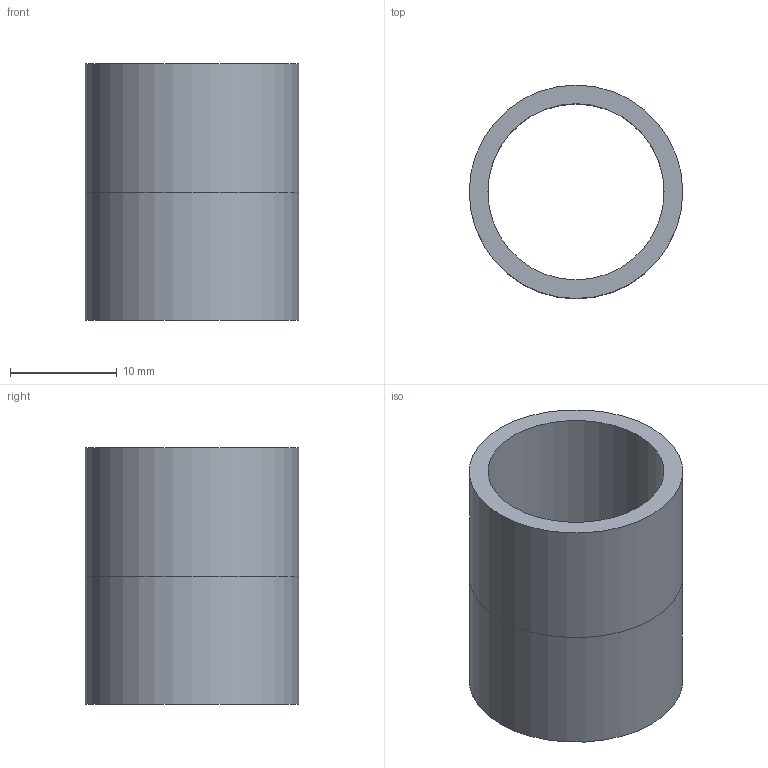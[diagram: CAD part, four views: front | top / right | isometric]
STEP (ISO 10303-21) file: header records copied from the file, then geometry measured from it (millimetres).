
FILE_DESCRIPTION(('Open CASCADE Model'),'2;1');
FILE_NAME('Open CASCADE Shape Model','2026-10-25T05:18:02',('Author'),( 'Open CASCADE'),'Open CASCADE STEP processor 7.9','Open CASCADE 7.9' ,'Unknown');
FILE_SCHEMA(('AUTOMOTIVE_DESIGN { 1 0 10303 214 1 1 1 1 }'));
Length unit declared in the file: millimetre
Products named in the file (1): Open CASCADE STEP translator 7.9 63
Bounding box: 20 x 20 x 24 mm (x, y, z)
Volume: 2408 mm3; surface area: 2952.7 mm2
Topology: 1 solids, 1 shells, 6 faces, 10 edges, 6 vertices
Faces by surface type: cylinder 4, plane 2
Full cylindrical faces by diameter (mm): 16.5 x2, 20 x2
Entity records: 288 total; most frequent: DIRECTION 50, CARTESIAN_POINT 43, ORIENTED_EDGE 20, LINE 20, VECTOR 20, PCURVE 20, DEFINITIONAL_REPRESENTATION 20, AXIS2_PLACEMENT_3D 13
